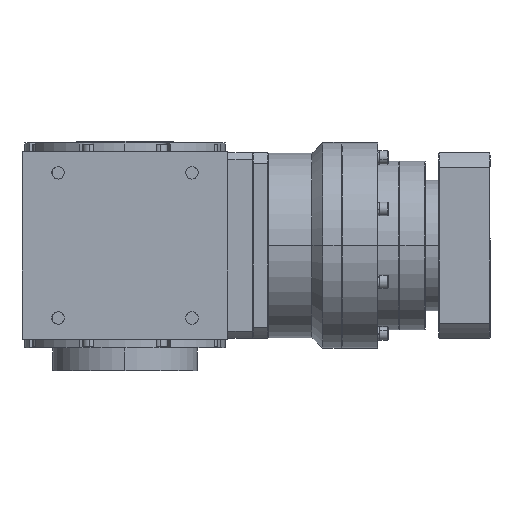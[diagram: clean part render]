
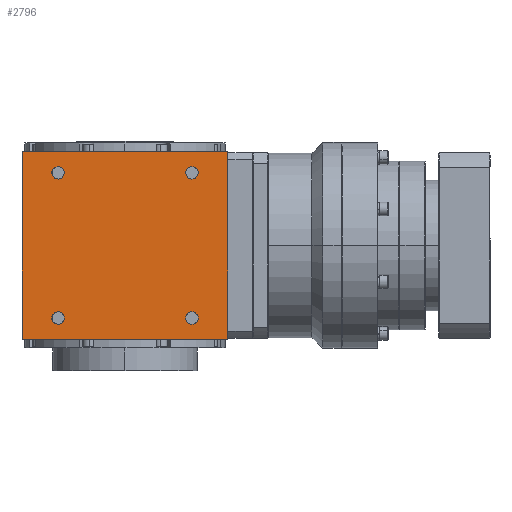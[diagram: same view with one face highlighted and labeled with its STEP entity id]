
A CAD part, left-side view. The second image highlights one B-rep face of the part: STEP entity #2796.
In plain terms, the highlighted planar face has unit normal (-1, 0, 0).
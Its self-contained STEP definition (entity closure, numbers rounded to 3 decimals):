
#101 = AXIS2_PLACEMENT_3D ( 'NONE', #4083, #10525, #30057 ) ;
#405 = DIRECTION ( 'NONE',  ( 0., -1., 0. ) ) ;
#629 = VERTEX_POINT ( 'NONE', #25009 ) ;
#1491 = ORIENTED_EDGE ( 'NONE', *, *, #1685, .T. ) ;
#1685 = EDGE_CURVE ( 'NONE', #2888, #29953, #13595, .T. ) ;
#2106 = EDGE_CURVE ( 'NONE', #32752, #15124, #5422, .T. ) ;
#2753 = DIRECTION ( 'NONE',  ( 0., -1., 0. ) ) ;
#2796 = ADVANCED_FACE ( 'NONE', ( #4774, #17651, #5186, #15283, #7789 ), #4560, .T. ) ;
#2888 = VERTEX_POINT ( 'NONE', #39412 ) ;
#4083 = CARTESIAN_POINT ( 'NONE',  ( -100., 64.966, -70.5 ) ) ;
#4156 = CARTESIAN_POINT ( 'NONE',  ( -100., 0., 91. ) ) ;
#4220 = ORIENTED_EDGE ( 'NONE', *, *, #15330, .T. ) ;
#4395 = CIRCLE ( 'NONE', #14651, 6. ) ;
#4560 = PLANE ( 'NONE',  #22611 ) ;
#4585 = CARTESIAN_POINT ( 'NONE',  ( -100., -100., -91. ) ) ;
#4669 = EDGE_LOOP ( 'NONE', ( #37908, #37280 ) ) ;
#4774 = FACE_OUTER_BOUND ( 'NONE', #10776, .T. ) ;
#5186 = FACE_BOUND ( 'NONE', #4669, .T. ) ;
#5422 = CIRCLE ( 'NONE', #18442, 6. ) ;
#5978 = CARTESIAN_POINT ( 'NONE',  ( -100., -65.034, 70.5 ) ) ;
#6511 = EDGE_CURVE ( 'NONE', #629, #27218, #4395, .T. ) ;
#6677 = EDGE_CURVE ( 'NONE', #9666, #15686, #9196, .T. ) ;
#7688 = CIRCLE ( 'NONE', #101, 6. ) ;
#7789 = FACE_BOUND ( 'NONE', #18628, .T. ) ;
#8231 = LINE ( 'NONE', #4585, #11531 ) ;
#8416 = DIRECTION ( 'NONE',  ( -1., 0., 0. ) ) ;
#9196 = CIRCLE ( 'NONE', #33892, 6. ) ;
#9312 = CARTESIAN_POINT ( 'NONE',  ( -100., 100., -91. ) ) ;
#9423 = ORIENTED_EDGE ( 'NONE', *, *, #6677, .T. ) ;
#9666 = VERTEX_POINT ( 'NONE', #26079 ) ;
#10082 = AXIS2_PLACEMENT_3D ( 'NONE', #18424, #15414, #28507 ) ;
#10525 = DIRECTION ( 'NONE',  ( 1., 0., 0. ) ) ;
#10568 = ORIENTED_EDGE ( 'NONE', *, *, #29408, .T. ) ;
#10776 = EDGE_LOOP ( 'NONE', ( #21070, #13423, #10568, #17330 ) ) ;
#11531 = VECTOR ( 'NONE', #14871, 1000. ) ;
#12027 = CARTESIAN_POINT ( 'NONE',  ( -100., 64.966, 70.5 ) ) ;
#12086 = ORIENTED_EDGE ( 'NONE', *, *, #14678, .T. ) ;
#12813 = CIRCLE ( 'NONE', #10082, 6. ) ;
#13213 = EDGE_CURVE ( 'NONE', #18120, #40738, #17256, .T. ) ;
#13423 = ORIENTED_EDGE ( 'NONE', *, *, #25030, .T. ) ;
#13595 = CIRCLE ( 'NONE', #19787, 6. ) ;
#13950 = DIRECTION ( 'NONE',  ( 0., -1., 0. ) ) ;
#14266 = CARTESIAN_POINT ( 'NONE',  ( -100., 70.966, 70.5 ) ) ;
#14644 = VECTOR ( 'NONE', #17470, 1000. ) ;
#14651 = AXIS2_PLACEMENT_3D ( 'NONE', #12027, #35196, #25101 ) ;
#14678 = EDGE_CURVE ( 'NONE', #27218, #629, #42194, .T. ) ;
#14743 = CARTESIAN_POINT ( 'NONE',  ( -100., 100., -91. ) ) ;
#14871 = DIRECTION ( 'NONE',  ( 0., 0., 1. ) ) ;
#15124 = VERTEX_POINT ( 'NONE', #39022 ) ;
#15283 = FACE_BOUND ( 'NONE', #34106, .T. ) ;
#15330 = EDGE_CURVE ( 'NONE', #29953, #2888, #12813, .T. ) ;
#15414 = DIRECTION ( 'NONE',  ( 1., 0., 0. ) ) ;
#15686 = VERTEX_POINT ( 'NONE', #34872 ) ;
#17256 = LINE ( 'NONE', #4156, #14644 ) ;
#17330 = ORIENTED_EDGE ( 'NONE', *, *, #13213, .F. ) ;
#17470 = DIRECTION ( 'NONE',  ( 0., -1., 0. ) ) ;
#17651 = FACE_BOUND ( 'NONE', #40450, .T. ) ;
#18120 = VERTEX_POINT ( 'NONE', #26208 ) ;
#18424 = CARTESIAN_POINT ( 'NONE',  ( -100., -65.034, 70.5 ) ) ;
#18442 = AXIS2_PLACEMENT_3D ( 'NONE', #42152, #19637, #32725 ) ;
#18628 = EDGE_LOOP ( 'NONE', ( #1491, #4220 ) ) ;
#19168 = AXIS2_PLACEMENT_3D ( 'NONE', #23585, #33886, #13950 ) ;
#19378 = DIRECTION ( 'NONE',  ( 0., -1., 0. ) ) ;
#19637 = DIRECTION ( 'NONE',  ( 1., 0., 0. ) ) ;
#19787 = AXIS2_PLACEMENT_3D ( 'NONE', #5978, #32162, #2753 ) ;
#19919 = ORIENTED_EDGE ( 'NONE', *, *, #6511, .T. ) ;
#21070 = ORIENTED_EDGE ( 'NONE', *, *, #22283, .F. ) ;
#21502 = DIRECTION ( 'NONE',  ( 0., 0., 1. ) ) ;
#22181 = DIRECTION ( 'NONE',  ( 1., 0., 0. ) ) ;
#22283 = EDGE_CURVE ( 'NONE', #24154, #18120, #35695, .T. ) ;
#22611 = AXIS2_PLACEMENT_3D ( 'NONE', #30965, #8416, #21502 ) ;
#23585 = CARTESIAN_POINT ( 'NONE',  ( -100., -65.034, -70.5 ) ) ;
#24154 = VERTEX_POINT ( 'NONE', #14743 ) ;
#25009 = CARTESIAN_POINT ( 'NONE',  ( -100., 58.966, 70.5 ) ) ;
#25030 = EDGE_CURVE ( 'NONE', #24154, #30681, #28369, .T. ) ;
#25101 = DIRECTION ( 'NONE',  ( 0., -1., 0. ) ) ;
#25370 = CARTESIAN_POINT ( 'NONE',  ( -100., 64.966, 70.5 ) ) ;
#25554 = DIRECTION ( 'NONE',  ( 0., -1., 0. ) ) ;
#26079 = CARTESIAN_POINT ( 'NONE',  ( -100., 58.966, -70.5 ) ) ;
#26208 = CARTESIAN_POINT ( 'NONE',  ( -100., 100., 91. ) ) ;
#27218 = VERTEX_POINT ( 'NONE', #14266 ) ;
#28369 = LINE ( 'NONE', #41425, #33383 ) ;
#28507 = DIRECTION ( 'NONE',  ( 0., -1., 0. ) ) ;
#29408 = EDGE_CURVE ( 'NONE', #30681, #40738, #8231, .T. ) ;
#29540 = CARTESIAN_POINT ( 'NONE',  ( -100., -59.034, -70.5 ) ) ;
#29953 = VERTEX_POINT ( 'NONE', #36438 ) ;
#30057 = DIRECTION ( 'NONE',  ( 0., -1., 0. ) ) ;
#30104 = VECTOR ( 'NONE', #32278, 1000. ) ;
#30112 = EDGE_CURVE ( 'NONE', #15124, #32752, #31476, .T. ) ;
#30681 = VERTEX_POINT ( 'NONE', #36123 ) ;
#30965 = CARTESIAN_POINT ( 'NONE',  ( -100., 100., -91. ) ) ;
#31476 = CIRCLE ( 'NONE', #19168, 6. ) ;
#31857 = EDGE_CURVE ( 'NONE', #15686, #9666, #7688, .T. ) ;
#32162 = DIRECTION ( 'NONE',  ( 1., 0., 0. ) ) ;
#32278 = DIRECTION ( 'NONE',  ( 0., 0., 1. ) ) ;
#32725 = DIRECTION ( 'NONE',  ( 0., -1., 0. ) ) ;
#32752 = VERTEX_POINT ( 'NONE', #29540 ) ;
#33036 = DIRECTION ( 'NONE',  ( 1., 0., 0. ) ) ;
#33383 = VECTOR ( 'NONE', #25554, 1000. ) ;
#33886 = DIRECTION ( 'NONE',  ( 1., 0., 0. ) ) ;
#33892 = AXIS2_PLACEMENT_3D ( 'NONE', #35396, #33036, #405 ) ;
#34106 = EDGE_LOOP ( 'NONE', ( #9423, #36348 ) ) ;
#34872 = CARTESIAN_POINT ( 'NONE',  ( -100., 70.966, -70.5 ) ) ;
#35196 = DIRECTION ( 'NONE',  ( 1., 0., 0. ) ) ;
#35396 = CARTESIAN_POINT ( 'NONE',  ( -100., 64.966, -70.5 ) ) ;
#35695 = LINE ( 'NONE', #9312, #30104 ) ;
#36123 = CARTESIAN_POINT ( 'NONE',  ( -100., -100., -91. ) ) ;
#36348 = ORIENTED_EDGE ( 'NONE', *, *, #31857, .T. ) ;
#36438 = CARTESIAN_POINT ( 'NONE',  ( -100., -59.034, 70.5 ) ) ;
#36545 = CARTESIAN_POINT ( 'NONE',  ( -100., -100., 91. ) ) ;
#37280 = ORIENTED_EDGE ( 'NONE', *, *, #2106, .T. ) ;
#37908 = ORIENTED_EDGE ( 'NONE', *, *, #30112, .T. ) ;
#39022 = CARTESIAN_POINT ( 'NONE',  ( -100., -71.034, -70.5 ) ) ;
#39412 = CARTESIAN_POINT ( 'NONE',  ( -100., -71.034, 70.5 ) ) ;
#40450 = EDGE_LOOP ( 'NONE', ( #19919, #12086 ) ) ;
#40738 = VERTEX_POINT ( 'NONE', #36545 ) ;
#41425 = CARTESIAN_POINT ( 'NONE',  ( -100., 0., -91. ) ) ;
#41527 = AXIS2_PLACEMENT_3D ( 'NONE', #25370, #22181, #19378 ) ;
#42152 = CARTESIAN_POINT ( 'NONE',  ( -100., -65.034, -70.5 ) ) ;
#42194 = CIRCLE ( 'NONE', #41527, 6. ) ;
